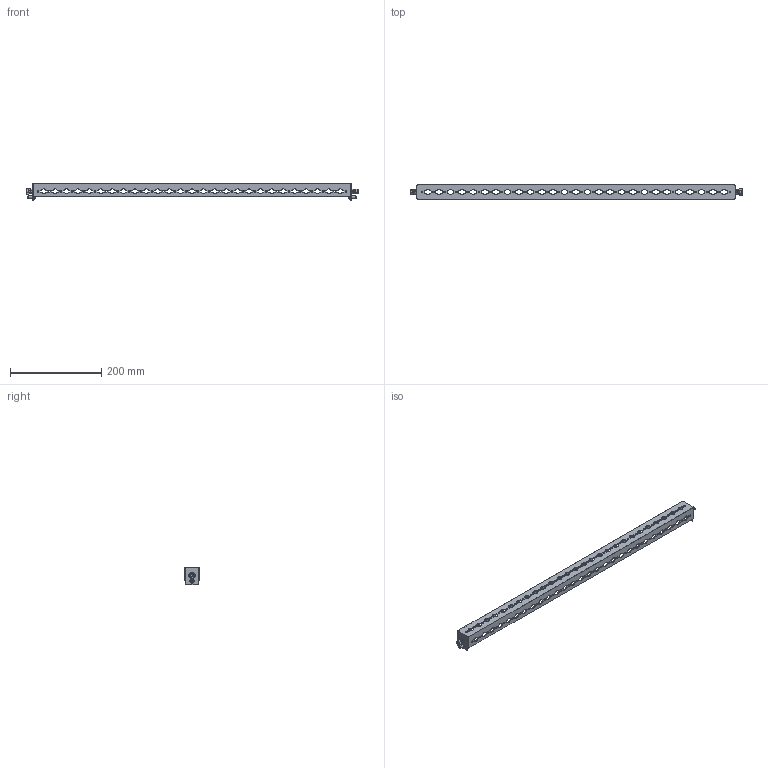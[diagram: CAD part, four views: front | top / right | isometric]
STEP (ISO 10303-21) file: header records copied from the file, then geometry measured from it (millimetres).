
FILE_DESCRIPTION(('Open CASCADE Model'),'2;1');
FILE_NAME('Open CASCADE Shape Model','2025-02-21T11:47:55',('Author'),( 'Open CASCADE'),'Open CASCADE STEP processor 7.8','Open CASCADE 7.8' ,'Unknown');
FILE_SCHEMA(('AUTOMOTIVE_DESIGN { 1 0 10303 214 1 1 1 1 }'));
Length unit declared in the file: millimetre
Products named in the file (5): Compound1; Solid1; Solid2; Solid3; Solid4
Assembly tree (7 placements, depth 2):
  Compound1
    Solid1
    Solid2  x2
    Solid3  x2
    Solid4  x2
Bounding box: 727.6 x 34 x 38.5 mm (x, y, z)
Volume: 86727.1 mm3; surface area: 125149 mm2
Topology: 9 solids, 9 shells, 1822 faces, 5290 edges, 3484 vertices
Faces by surface type: cylinder 980, plane 702, bspline 80, torus 32, cone 24, sphere 4
Full cylindrical faces by diameter (mm): 4.2 x84, 5 x4, 5.5 x2, 6 x2, 6.5 x4, 8.3 x2, 9.5 x2, 12 x2
Entity records: 57897 total; most frequent: CARTESIAN_POINT 12490, DIRECTION 9690, ORIENTED_EDGE 9574, EDGE_CURVE 4787, AXIS2_PLACEMENT_3D 3559, VERTEX_POINT 3176, LINE 2572, VECTOR 2572
